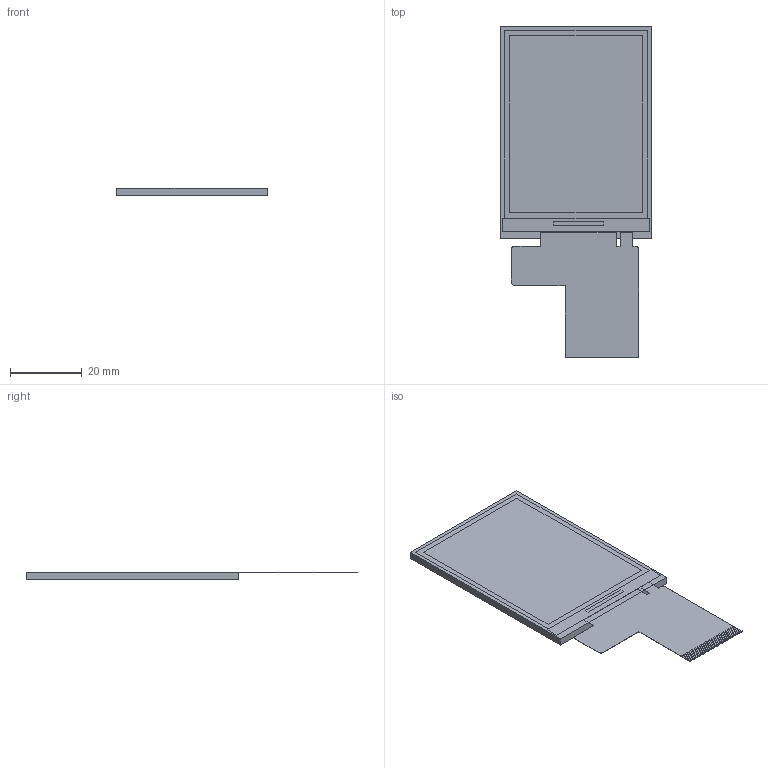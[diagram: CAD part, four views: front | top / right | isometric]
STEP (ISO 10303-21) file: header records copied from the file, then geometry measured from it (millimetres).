
FILE_DESCRIPTION (( 'STEP AP214' ), '1' );
FILE_NAME ('CFAF240320A0-024SN.STEP', '2019-11-07T21:25:45', ( '' ), ( '' ), 'SwSTEP 2.0', 'SolidWorks 2015', '' );
FILE_SCHEMA (( 'AUTOMOTIVE_DESIGN' ));
Length unit declared in the file: millimetre
Products named in the file (1): CFAF240320A0-024SN
Bounding box: 42 x 92.05 x 2.11 mm (x, y, z)
Volume: 5298.3 mm3; surface area: 7313.7 mm2
Topology: 42 solids, 42 shells, 273 faces, 568 edges, 382 vertices
Faces by surface type: plane 270, cylinder 3
Entity records: 10228 total; most frequent: CARTESIAN_POINT 1224, ORIENTED_EDGE 1136, DIRECTION 1122, EDGE_CURVE 568, LINE 562, VECTOR 562, VERTEX_POINT 382, UNCERTAINTY_MEASURE_WITH_UNIT 291
